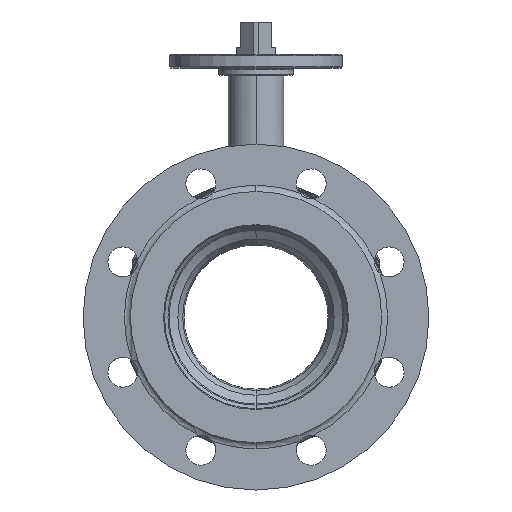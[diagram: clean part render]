
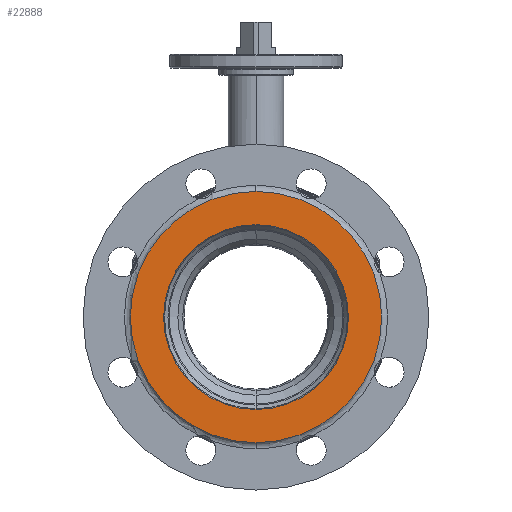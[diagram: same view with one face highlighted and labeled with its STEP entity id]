
A CAD part, left-side view. The second image highlights one B-rep face of the part: STEP entity #22888.
In plain terms, the highlighted planar face has unit normal (-1, 0, 0).
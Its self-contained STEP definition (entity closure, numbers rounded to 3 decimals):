
#8026=CARTESIAN_POINT('',(-175.,0.,0.));
#8027=DIRECTION('',(1.,0.,0.));
#8028=DIRECTION('',(0.,0.,-1.));
#8029=AXIS2_PLACEMENT_3D('',#8026,#8027,#8028);
#8031=CARTESIAN_POINT('',(-175.,0.,0.));
#8032=DIRECTION('',(1.,0.,0.));
#8033=DIRECTION('',(0.,0.,1.));
#8034=AXIS2_PLACEMENT_3D('',#8031,#8032,#8033);
#8036=CARTESIAN_POINT('',(-175.,0.,0.));
#8037=DIRECTION('',(1.,0.,0.));
#8038=DIRECTION('',(0.,0.,-1.));
#8039=AXIS2_PLACEMENT_3D('',#8036,#8037,#8038);
#8041=CARTESIAN_POINT('',(-175.,0.,0.));
#8042=DIRECTION('',(1.,0.,0.));
#8043=DIRECTION('',(0.,0.,1.));
#8044=AXIS2_PLACEMENT_3D('',#8041,#8042,#8043);
#9623=CARTESIAN_POINT('',(-175.,0.,-80.15));
#9624=CARTESIAN_POINT('',(-175.,0.,80.15));
#9625=VERTEX_POINT('',#9623);
#9626=VERTEX_POINT('',#9624);
#9627=CARTESIAN_POINT('',(-175.,0.,-109.));
#9628=CARTESIAN_POINT('',(-175.,0.,109.));
#9629=VERTEX_POINT('',#9627);
#9630=VERTEX_POINT('',#9628);
#22873=CARTESIAN_POINT('',(-175.,0.,0.));
#22874=DIRECTION('',(1.,0.,0.));
#22875=DIRECTION('',(0.,0.,-1.));
#22876=AXIS2_PLACEMENT_3D('',#22873,#22874,#22875);
#22877=PLANE('',#22876);
#22878=ORIENTED_EDGE('',*,*,#22826,.T.);
#22879=ORIENTED_EDGE('',*,*,#22794,.T.);
#22880=EDGE_LOOP('',(#22878,#22879));
#22881=FACE_OUTER_BOUND('',#22880,.F.);
#22883=ORIENTED_EDGE('',*,*,#22882,.F.);
#22885=ORIENTED_EDGE('',*,*,#22884,.F.);
#22886=EDGE_LOOP('',(#22883,#22885));
#22887=FACE_BOUND('',#22886,.F.);
#22888=ADVANCED_FACE('',(#22881,#22887),#22877,.F.);
#8030=CIRCLE('',#8029,109.);
#8035=CIRCLE('',#8034,109.);
#8040=CIRCLE('',#8039,80.15);
#8045=CIRCLE('',#8044,80.15);
#22794=EDGE_CURVE('',#9630,#9629,#8035,.T.);
#22826=EDGE_CURVE('',#9629,#9630,#8030,.T.);
#22882=EDGE_CURVE('',#9625,#9626,#8040,.T.);
#22884=EDGE_CURVE('',#9626,#9625,#8045,.T.);
